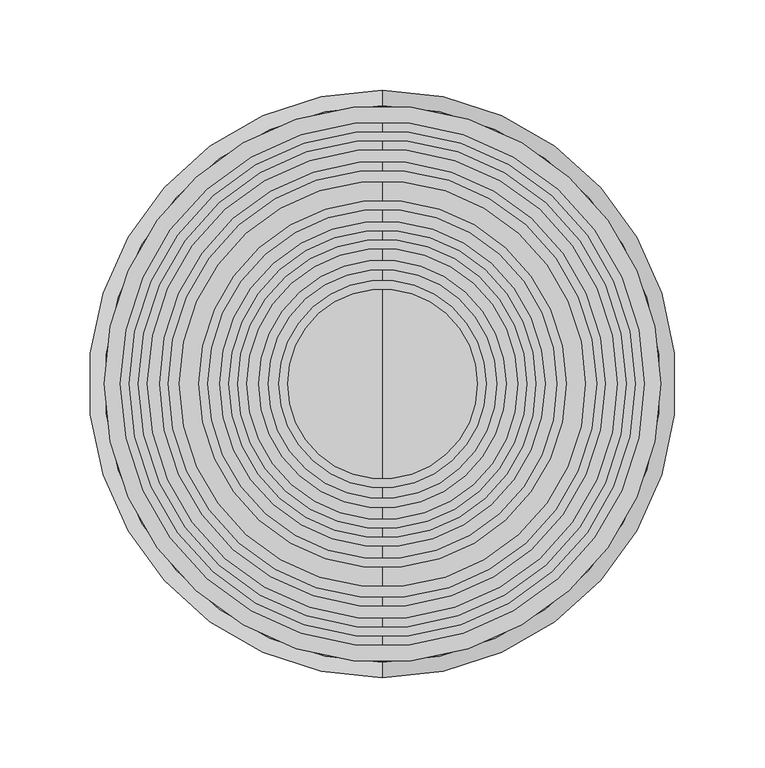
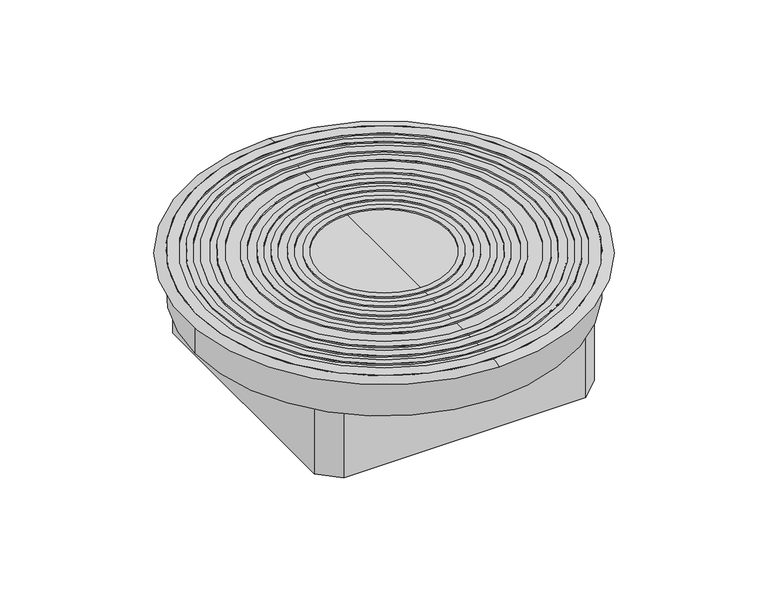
"""IFC4 building model written with IfcOpenShell, lengths in millimetres: proxy geometry, Electrical_Installation_Hager_VE-EE_VANR-Service-unit-for-wet-cleaned-floors-for-the-installation-tube-cable-outlet-made-of-aluminium : Service unit R12 w set HB wet Al-Tub R."""

from ifc_helpers import new_model, si_unit, point, frame, origin, origin_with_axes, origin_2d, place, context, project, spatial, polyline, circle_curve, ellipse_curve, trimmed, segment, composite_curve, outline, extrude, source, transform, mapped, element, save
from ifc_brep_helpers import plane_surface, revolved_surface, advanced_brep


def electrical_fixtures_057aeb0d(model_context):
    return source(origin(), model_context, "Body", "SolidModel", [
        extrude(outline(composite_curve([segment(trimmed(circle_curve(origin_2d(), 140.0), [point((-140.0, 0.0))], [point((140.0, 0.0))], False, "CARTESIAN"), True, "CONTINUOUS"), segment(trimmed(circle_curve(origin_2d(), 140.0), [point((140.0, 0.0))], [point((-140.0, 0.0))], False, "CARTESIAN"), True, "CONTINUOUS")], self_intersect=False), holes=[composite_curve([segment(trimmed(circle_curve(origin_2d(), 135.0), [point((135.0, 0.0))], [point((-135.0, 0.0))], True, "CARTESIAN"), True, "CONTINUOUS"), segment(trimmed(circle_curve(origin_2d(), 135.0), [point((-135.0, 0.0))], [point((135.0, 0.0))], True, "CARTESIAN"), True, "CONTINUOUS")], self_intersect=False)]), origin_with_axes(), (0.0, 0.0, 1.0), 2.0),
        extrude(outline(composite_curve([segment(trimmed(circle_curve(origin_2d(), 130.0), [point((-130.0, 0.0))], [point((130.0, 0.0))], False, "CARTESIAN"), True, "CONTINUOUS"), segment(trimmed(circle_curve(origin_2d(), 130.0), [point((130.0, 0.0))], [point((-130.0, 0.0))], False, "CARTESIAN"), True, "CONTINUOUS")], self_intersect=False), holes=[composite_curve([segment(trimmed(circle_curve(origin_2d(), 123.295296), [point((123.295296, 0.0))], [point((-123.295296, 0.0))], True, "CARTESIAN"), True, "CONTINUOUS"), segment(trimmed(circle_curve(origin_2d(), 123.295296), [point((-123.295296, 0.0))], [point((123.295296, 0.0))], True, "CARTESIAN"), True, "CONTINUOUS")], self_intersect=False)]), origin_with_axes(), (0.0, 0.0, 1.0), 2.0),
        extrude(outline(composite_curve([segment(trimmed(circle_curve(origin_2d(), 118.499994), [point((-118.499994, 0.0))], [point((118.499994, 0.0))], False, "CARTESIAN"), True, "CONTINUOUS"), segment(trimmed(circle_curve(origin_2d(), 118.499994), [point((118.499994, 0.0))], [point((-118.499994, 0.0))], False, "CARTESIAN"), True, "CONTINUOUS")], self_intersect=False), holes=[composite_curve([segment(trimmed(circle_curve(origin_2d(), 112.3953075), [point((112.3953075, 0.0))], [point((-112.3953075, 0.0))], True, "CARTESIAN"), True, "CONTINUOUS"), segment(trimmed(circle_curve(origin_2d(), 112.3953075), [point((-112.3953075, 0.0))], [point((112.3953075, 0.0))], True, "CARTESIAN"), True, "CONTINUOUS")], self_intersect=False)]), origin_with_axes(), (0.0, 0.0, 1.0), 2.0),
        extrude(outline(composite_curve([segment(trimmed(circle_curve(origin_2d(), 101.6340503), [point((-101.6340503, 0.0))], [point((101.6340503, 0.0))], False, "CARTESIAN"), True, "CONTINUOUS"), segment(trimmed(circle_curve(origin_2d(), 101.6340503), [point((101.6340503, 0.0))], [point((-101.6340503, 0.0))], False, "CARTESIAN"), True, "CONTINUOUS")], self_intersect=False), holes=[composite_curve([segment(trimmed(circle_curve(origin_2d(), 96.6344819), [point((96.6344819, 0.0))], [point((-96.6344819, 0.0))], True, "CARTESIAN"), True, "CONTINUOUS"), segment(trimmed(circle_curve(origin_2d(), 96.6344819), [point((-96.6344819, 0.0))], [point((96.6344819, 0.0))], True, "CARTESIAN"), True, "CONTINUOUS")], self_intersect=False)]), origin_with_axes(), (0.0, 0.0, 1.0), 2.0),
        extrude(outline(composite_curve([segment(trimmed(circle_curve(origin_2d(), 90.0), [point((-90.0, 0.0))], [point((90.0, 0.0))], False, "CARTESIAN"), True, "CONTINUOUS"), segment(trimmed(circle_curve(origin_2d(), 90.0), [point((90.0, 0.0))], [point((-90.0, 0.0))], False, "CARTESIAN"), True, "CONTINUOUS")], self_intersect=False), holes=[composite_curve([segment(trimmed(circle_curve(origin_2d(), 85.0), [point((85.0, 0.0))], [point((-85.0, 0.0))], True, "CARTESIAN"), True, "CONTINUOUS"), segment(trimmed(circle_curve(origin_2d(), 85.0), [point((-85.0, 0.0))], [point((85.0, 0.0))], True, "CARTESIAN"), True, "CONTINUOUS")], self_intersect=False)]), origin_with_axes(), (0.0, 0.0, 1.0), 2.0),
        extrude(outline(composite_curve([segment(trimmed(circle_curve(origin_2d(), 80.0), [point((-80.0, 0.0))], [point((80.0, 0.0))], False, "CARTESIAN"), True, "CONTINUOUS"), segment(trimmed(circle_curve(origin_2d(), 80.0), [point((80.0, 0.0))], [point((-80.0, 0.0))], False, "CARTESIAN"), True, "CONTINUOUS")], self_intersect=False), holes=[composite_curve([segment(trimmed(circle_curve(origin_2d(), 75.0), [point((75.0, 0.0))], [point((-75.0, 0.0))], True, "CARTESIAN"), True, "CONTINUOUS"), segment(trimmed(circle_curve(origin_2d(), 75.0), [point((-75.0, 0.0))], [point((75.0, 0.0))], True, "CARTESIAN"), True, "CONTINUOUS")], self_intersect=False)]), origin_with_axes(), (0.0, 0.0, 1.0), 2.0),
        extrude(outline(composite_curve([segment(trimmed(circle_curve(origin_2d(), 68.4542428), [point((-68.4542428, 0.0))], [point((68.4542428, 0.0))], False, "CARTESIAN"), True, "CONTINUOUS"), segment(trimmed(circle_curve(origin_2d(), 68.4542428), [point((68.4542428, 0.0))], [point((-68.4542428, 0.0))], False, "CARTESIAN"), True, "CONTINUOUS")], self_intersect=False), holes=[composite_curve([segment(trimmed(circle_curve(origin_2d(), 63.2916126), [point((63.2916126, 0.0))], [point((-63.2916126, 0.0))], True, "CARTESIAN"), True, "CONTINUOUS"), segment(trimmed(circle_curve(origin_2d(), 63.2916126), [point((-63.2916126, 0.0))], [point((63.2916126, 0.0))], True, "CARTESIAN"), True, "CONTINUOUS")], self_intersect=False)]), origin_with_axes(), (0.0, 0.0, 1.0), 2.0),
        extrude(outline(composite_curve([segment(trimmed(circle_curve(origin_2d(), 57.3493288), [point((-57.3493288, 0.0))], [point((57.3493288, 0.0))], False, "CARTESIAN"), True, "CONTINUOUS"), segment(trimmed(circle_curve(origin_2d(), 57.3493288), [point((57.3493288, 0.0))], [point((-57.3493288, 0.0))], False, "CARTESIAN"), True, "CONTINUOUS")], self_intersect=False), holes=[composite_curve([segment(trimmed(circle_curve(origin_2d(), 52.5), [point((52.5, 0.0))], [point((-52.5, 0.0))], True, "CARTESIAN"), True, "CONTINUOUS"), segment(trimmed(circle_curve(origin_2d(), 52.5), [point((-52.5, 0.0))], [point((52.5, 0.0))], True, "CARTESIAN"), True, "CONTINUOUS")], self_intersect=False)]), origin_with_axes(), (0.0, 0.0, 1.0), 2.0),
        extrude(outline(composite_curve([segment(trimmed(circle_curve(origin_2d(), 154.0), [point((-154.0, 0.0))], [point((154.0, 0.0))], False, "CARTESIAN"), True, "CONTINUOUS"), segment(trimmed(circle_curve(origin_2d(), 154.0), [point((154.0, 0.0))], [point((-154.0, 0.0))], False, "CARTESIAN"), True, "CONTINUOUS")], self_intersect=False), holes=[composite_curve([segment(trimmed(circle_curve(origin_2d(), 145.0), [point((145.0, 0.0))], [point((-145.0, 0.0))], True, "CARTESIAN"), True, "CONTINUOUS"), segment(trimmed(circle_curve(origin_2d(), 145.0), [point((-145.0, 0.0))], [point((145.0, 0.0))], True, "CARTESIAN"), True, "CONTINUOUS")], self_intersect=False)]), origin_with_axes(), (0.0, 0.0, 1.0), 2.0),
        extrude(outline(polyline([(-99.0882065, 114.5), (99.3942383, 114.5), (114.5, 99.0262113), (114.5, -98.7169494), (98.5882125, -114.5), (-98.7359175, -114.5), (-114.5, -99.7976183), (-114.5, 100.165624), (-99.0882065, 114.5)]), holes=[polyline([(111.0181904, 98.7695063), (98.7659338, 111.5), (-98.7903505, 111.5), (-111.5, 98.7903505), (-111.5, -98.7903505), (-98.7903505, -111.5), (98.2048826, -111.5), (111.0181904, -96.4986902), (111.0181904, 98.7695063)])]), frame((0.0, 0.0, -90.0), z_axis=(0.0, 0.0, 1.0), x_axis=(1.0, 0.0, 0.0)), (0.0, 0.0, 1.0), 57.0),
        extrude(outline(composite_curve([segment(trimmed(circle_curve(origin_2d(), 154.0), [point((-154.0, 0.0))], [point((154.0, 0.0))], False, "CARTESIAN"), True, "CONTINUOUS"), segment(trimmed(circle_curve(origin_2d(), 154.0), [point((154.0, 0.0))], [point((-154.0, 0.0))], False, "CARTESIAN"), True, "CONTINUOUS")], self_intersect=False), holes=[composite_curve([segment(trimmed(circle_curve(origin_2d(), 149.4973074), [point((-114.5, -96.120731))], [point((-96.120731, -114.5))], True, "CARTESIAN"), True, "CONTINUOUS"), segment(polyline([(-96.120731, -114.5), (96.120731, -114.5)]), True, "CONTINUOUS"), segment(trimmed(circle_curve(origin_2d(), 149.4973074), [point((96.120731, -114.5))], [point((114.5, -96.120731))], True, "CARTESIAN"), True, "CONTINUOUS"), segment(polyline([(114.5, -96.120731), (114.5, 96.120731)]), True, "CONTINUOUS"), segment(trimmed(circle_curve(origin_2d(), 149.4973074), [point((114.5, 96.120731))], [point((96.120731, 114.5))], True, "CARTESIAN"), True, "CONTINUOUS"), segment(polyline([(96.120731, 114.5), (-96.120731, 114.5)]), True, "CONTINUOUS"), segment(trimmed(circle_curve(origin_2d(), 149.4973074), [point((-96.120731, 114.5))], [point((-114.5, 96.120731))], True, "CARTESIAN"), True, "CONTINUOUS"), segment(polyline([(-114.5, 96.120731), (-114.5, -96.120731)]), True, "CONTINUOUS")], self_intersect=False)]), frame((0.0, 0.0, -33.0), z_axis=(0.0, 0.0, 1.0), x_axis=(1.0, 0.0, 0.0)), (0.0, 0.0, 1.0), 33.0),
        advanced_brep(
        [(0.0, -162.5, 0.0), (0.0, 162.5, 0.0), (0.0, 0.0, 0.0), (0.0, -154.0132917, 0.9941326), (0.0, 154.0132917, 0.9941326), (0.0, 154.0132917, 1.9800426), (0.0, -154.0132917, 1.9800426), (0.0, 0.0, 0.9941326)],
        [
            (0, 1, circle_curve(frame((0.0, 0.0, 0.0), z_axis=(0.0, 0.0, -1.0), x_axis=(0.0, 1.0, 0.0)), 162.5)),
            (1, 2),
            (2, 0),
            (1, 0, circle_curve(frame((0.0, 0.0, 0.0), z_axis=(0.0, 0.0, -1.0), x_axis=(0.0, 1.0, 0.0)), 162.5)),
            (3, 4, circle_curve(frame((0.0, 0.0, 0.9941326), z_axis=(0.0, 0.0, -1.0), x_axis=(0.0, 1.0, 0.0)), 154.0132917)),
            (4, 5),
            (5, 6, circle_curve(frame((0.0, 0.0, 1.9800426), z_axis=(0.0, 0.0, 1.0), x_axis=(0.0, 1.0, 0.0)), 154.0132917)),
            (6, 3),
            (4, 3, circle_curve(frame((0.0, 0.0, 0.9941326), z_axis=(0.0, 0.0, -1.0), x_axis=(0.0, 1.0, 0.0)), 154.0132917)),
            (6, 5, circle_curve(frame((0.0, 0.0, 1.9800426), z_axis=(0.0, 0.0, 1.0), x_axis=(0.0, 1.0, 0.0)), 154.0132917)),
            (7, 4),
            (3, 7),
            (5, 1, circle_curve(frame((0.0, 154.4758851, -15.2147882), z_axis=(-1.0, 0.0, 0.0), x_axis=(0.0, 1.0, 0.0)), 17.2010523)),
            (0, 6, circle_curve(frame((0.0, -154.4758851, -15.2147882), z_axis=(-1.0, 0.0, 0.0), x_axis=(0.0, -1.0, 0.0)), 17.2010523)),
        ],
        [
            plane_surface(frame((0.0, 0.0, 0.0), z_axis=(0.0, 0.0, -1.0), x_axis=(0.0, 1.0, 0.0))),
            revolved_surface(polyline([(0.0, 154.0132917, 1.9800426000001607), (0.0, 154.0132917, 0.9941325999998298)]), (0.0, 0.0, 2341.8067943), (0.0, 0.0, 1.0)),
            plane_surface(frame((0.0, 0.0, 0.9941326), z_axis=(0.0, 0.0, 1.0), x_axis=(0.0, 1.0, 0.0))),
            revolved_surface(trimmed(ellipse_curve(frame((0.0, 154.4758851, -15.2147882), z_axis=(1.0, 0.0, 0.0), x_axis=(0.0, 1.0, 0.0)), 17.2010523, 17.2010523), [point((0.0, 162.5, 0.0))], [point((0.0, 154.0132917, 1.9800426))], True, "CARTESIAN"), (0.0, 0.0, 2341.8067943), (0.0, 0.0, 1.0)),
        ],
        [
            (0, [[1, 2, 3]]),
            (0, [[4, -3, -2]]),
            (1, [[5, 6, 7, 8]]),
            (1, [[9, -8, 10, -6]]),
            (2, [[11, -5, 12]]),
            (2, [[-12, -9, -11]]),
            (3, [[-7, 13, -1, 14]]),
            (3, [[-10, -14, -4, -13]]),
        ],
    ),
    ])


if __name__ == "__main__":
    model = new_model("IFC4")
    model_context = context("Model", 3, world=origin())
    ifc_project = project(units=[si_unit("LENGTHUNIT", "METRE", prefix="MILLI")], contexts=[model_context])
    site = spatial("IfcSite", under=ifc_project)
    building = spatial("IfcBuilding", under=site)
    placement = place(None, origin())
    electrical_fixtures_shape = electrical_fixtures_057aeb0d(model_context)
    element("IfcBuildingElementProxy", 1, Name="Electrical_Installation_Hager_VE-EE_VANR-Service-unit-for-wet-cleaned-floors-for-the-installation-tube-cable-outlet-made-of-aluminium : Service unit R12 w set HB wet Al-Tub R", ObjectType="Electrical_Installation_Hager_VE-EE_VANR-Service-unit-for-wet-cleaned-floors-for-the-installation-tube-cable-outlet-made-of-aluminium : Service unit R12 w set HB wet Al-Tub R", at=placement, inside=building, context=model_context, shape_type="MappedRepresentation", body=[
        mapped(electrical_fixtures_shape, transform((0.0, 0.0, 0.0), x_axis=(1.0, 0.0, 0.0), y_axis=(0.0, 1.0, 0.0), z_axis=(0.0, 0.0, 1.0))),
    ])
    save(model, "model.ifc")
